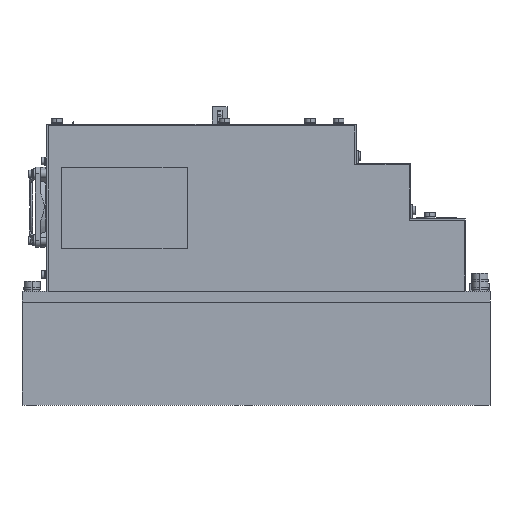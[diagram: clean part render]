
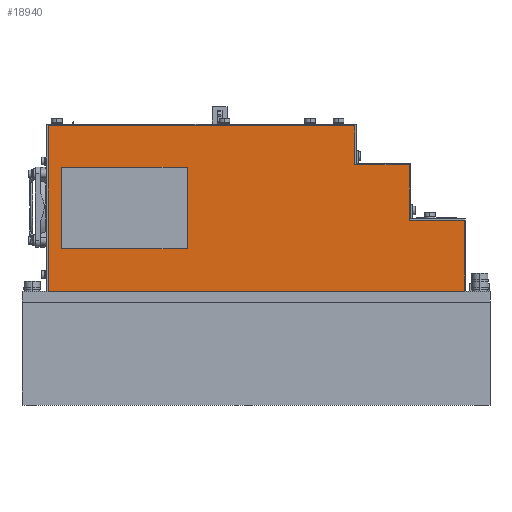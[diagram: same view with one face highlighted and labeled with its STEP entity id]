
A CAD part, left-side view. The second image highlights one B-rep face of the part: STEP entity #18940.
In plain terms, the highlighted planar face has unit normal (-1, 0, 0).
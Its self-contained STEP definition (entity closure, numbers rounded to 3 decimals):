
#18925 = EDGE_LOOP ( 'NONE', ( #19127, #19139, #19003, #19014 ) ) ;
#18940 = ADVANCED_FACE ( 'NONE', ( #55813, #55812 ), #55811, .F. ) ;
#18942 = EDGE_LOOP ( 'NONE', ( #18948, #18960, #18972, #19027, #19039, #19050, #19062, #19070 ) ) ;
#18948 = ORIENTED_EDGE ( 'NONE', *, *, #18951, .F. ) ;
#18951 = EDGE_CURVE ( 'NONE', #18953, #18958, #55870, .T. ) ;
#18953 = VERTEX_POINT ( 'NONE', #55862 ) ;
#18958 = VERTEX_POINT ( 'NONE', #55861 ) ;
#18960 = ORIENTED_EDGE ( 'NONE', *, *, #18961, .F. ) ;
#18961 = EDGE_CURVE ( 'NONE', #18964, #18953, #55860, .T. ) ;
#18964 = VERTEX_POINT ( 'NONE', #55856 ) ;
#18972 = ORIENTED_EDGE ( 'NONE', *, *, #18973, .F. ) ;
#18973 = EDGE_CURVE ( 'NONE', #18976, #18964, #55849, .T. ) ;
#18976 = VERTEX_POINT ( 'NONE', #55845 ) ;
#19000 = VERTEX_POINT ( 'NONE', #55897 ) ;
#19003 = ORIENTED_EDGE ( 'NONE', *, *, #19004, .F. ) ;
#19004 = EDGE_CURVE ( 'NONE', #19008, #19000, #55896, .T. ) ;
#19008 = VERTEX_POINT ( 'NONE', #55892 ) ;
#19014 = ORIENTED_EDGE ( 'NONE', *, *, #19015, .F. ) ;
#19015 = EDGE_CURVE ( 'NONE', #19135, #19008, #55886, .T. ) ;
#19027 = ORIENTED_EDGE ( 'NONE', *, *, #19032, .T. ) ;
#19032 = EDGE_CURVE ( 'NONE', #18976, #19037, #55929, .T. ) ;
#19037 = VERTEX_POINT ( 'NONE', #55921 ) ;
#19039 = ORIENTED_EDGE ( 'NONE', *, *, #19042, .T. ) ;
#19042 = EDGE_CURVE ( 'NONE', #19037, #19047, #55919, .T. ) ;
#19047 = VERTEX_POINT ( 'NONE', #55911 ) ;
#19050 = ORIENTED_EDGE ( 'NONE', *, *, #19052, .T. ) ;
#19052 = EDGE_CURVE ( 'NONE', #19047, #19055, #55909, .T. ) ;
#19055 = VERTEX_POINT ( 'NONE', #55964 ) ;
#19062 = ORIENTED_EDGE ( 'NONE', *, *, #19063, .T. ) ;
#19063 = EDGE_CURVE ( 'NONE', #19055, #19066, #55957, .T. ) ;
#19066 = VERTEX_POINT ( 'NONE', #55953 ) ;
#19070 = ORIENTED_EDGE ( 'NONE', *, *, #19072, .T. ) ;
#19072 = EDGE_CURVE ( 'NONE', #19066, #18958, #55952, .T. ) ;
#19127 = ORIENTED_EDGE ( 'NONE', *, *, #19128, .F. ) ;
#19128 = EDGE_CURVE ( 'NONE', #19133, #19135, #56029, .T. ) ;
#19133 = VERTEX_POINT ( 'NONE', #56025 ) ;
#19135 = VERTEX_POINT ( 'NONE', #56024 ) ;
#19139 = ORIENTED_EDGE ( 'NONE', *, *, #19142, .F. ) ;
#19142 = EDGE_CURVE ( 'NONE', #19000, #19133, #56013, .T. ) ;
#55807 = DIRECTION ( 'NONE',  ( 0., 0., -1. ) ) ;
#55808 = DIRECTION ( 'NONE',  ( 1., 0., 0. ) ) ;
#55809 = CARTESIAN_POINT ( 'NONE',  ( -25., -10.5, 551.066 ) ) ;
#55810 = AXIS2_PLACEMENT_3D ( 'NONE', #55809, #55808, #55807 ) ;
#55811 = PLANE ( 'NONE',  #55810 ) ;
#55812 = FACE_BOUND ( 'NONE', #18925, .T. ) ;
#55813 = FACE_OUTER_BOUND ( 'NONE', #18942, .T. ) ;
#55845 = CARTESIAN_POINT ( 'NONE',  ( -25., -323.5, 85.2 ) ) ;
#55846 = DIRECTION ( 'NONE',  ( 0., 1., 0. ) ) ;
#55847 = VECTOR ( 'NONE', #55846, 1000. ) ;
#55848 = CARTESIAN_POINT ( 'NONE',  ( -25., -10.5, 85.2 ) ) ;
#55849 = LINE ( 'NONE', #55848, #55847 ) ;
#55856 = CARTESIAN_POINT ( 'NONE',  ( -25., -12.1, 85.2 ) ) ;
#55857 = DIRECTION ( 'NONE',  ( 0., 0., 1. ) ) ;
#55858 = VECTOR ( 'NONE', #55857, 1000. ) ;
#55859 = CARTESIAN_POINT ( 'NONE',  ( -25., -12.1, 208.8 ) ) ;
#55860 = LINE ( 'NONE', #55859, #55858 ) ;
#55861 = CARTESIAN_POINT ( 'NONE',  ( -25., -241.3, 208.8 ) ) ;
#55862 = CARTESIAN_POINT ( 'NONE',  ( -25., -12.1, 208.8 ) ) ;
#55863 = DIRECTION ( 'NONE',  ( 0., -1., 0. ) ) ;
#55864 = VECTOR ( 'NONE', #55863, 1000. ) ;
#55865 = CARTESIAN_POINT ( 'NONE',  ( -25., -10.5, 208.8 ) ) ;
#55870 = LINE ( 'NONE', #55865, #55864 ) ;
#55883 = DIRECTION ( 'NONE',  ( 0., 0., 1. ) ) ;
#55884 = VECTOR ( 'NONE', #55883, 1000. ) ;
#55885 = CARTESIAN_POINT ( 'NONE',  ( -25., -116., 117. ) ) ;
#55886 = LINE ( 'NONE', #55885, #55884 ) ;
#55892 = CARTESIAN_POINT ( 'NONE',  ( -25., -116., 178. ) ) ;
#55893 = DIRECTION ( 'NONE',  ( 0., 1., 0. ) ) ;
#55894 = VECTOR ( 'NONE', #55893, 1000. ) ;
#55895 = CARTESIAN_POINT ( 'NONE',  ( -25., -22., 178. ) ) ;
#55896 = LINE ( 'NONE', #55895, #55894 ) ;
#55897 = CARTESIAN_POINT ( 'NONE',  ( -25., -22., 178. ) ) ;
#55906 = DIRECTION ( 'NONE',  ( 0., 0., 1. ) ) ;
#55907 = VECTOR ( 'NONE', #55906, 1000. ) ;
#55908 = CARTESIAN_POINT ( 'NONE',  ( -25., -282.1, 138.1 ) ) ;
#55909 = LINE ( 'NONE', #55908, #55907 ) ;
#55911 = CARTESIAN_POINT ( 'NONE',  ( -25., -282.1, 138.1 ) ) ;
#55916 = DIRECTION ( 'NONE',  ( 0., 1., 0. ) ) ;
#55917 = VECTOR ( 'NONE', #55916, 1000. ) ;
#55918 = CARTESIAN_POINT ( 'NONE',  ( -25., -324.5, 138.1 ) ) ;
#55919 = LINE ( 'NONE', #55918, #55917 ) ;
#55921 = CARTESIAN_POINT ( 'NONE',  ( -25., -323.5, 138.1 ) ) ;
#55926 = DIRECTION ( 'NONE',  ( 0., 0., 1. ) ) ;
#55927 = VECTOR ( 'NONE', #55926, 1000. ) ;
#55928 = CARTESIAN_POINT ( 'NONE',  ( -25., -323.5, 85. ) ) ;
#55929 = LINE ( 'NONE', #55928, #55927 ) ;
#55949 = DIRECTION ( 'NONE',  ( 0., 0., 1. ) ) ;
#55950 = VECTOR ( 'NONE', #55949, 1000. ) ;
#55951 = CARTESIAN_POINT ( 'NONE',  ( -25., -241.3, 179.8 ) ) ;
#55952 = LINE ( 'NONE', #55951, #55950 ) ;
#55953 = CARTESIAN_POINT ( 'NONE',  ( -25., -241.3, 179.8 ) ) ;
#55954 = DIRECTION ( 'NONE',  ( 0., 1., 0. ) ) ;
#55955 = VECTOR ( 'NONE', #55954, 1000. ) ;
#55956 = CARTESIAN_POINT ( 'NONE',  ( -25., -282.1, 179.8 ) ) ;
#55957 = LINE ( 'NONE', #55956, #55955 ) ;
#55964 = CARTESIAN_POINT ( 'NONE',  ( -25., -282.1, 179.8 ) ) ;
#56010 = DIRECTION ( 'NONE',  ( 0., 0., -1. ) ) ;
#56011 = VECTOR ( 'NONE', #56010, 1000. ) ;
#56012 = CARTESIAN_POINT ( 'NONE',  ( -25., -22., 117. ) ) ;
#56013 = LINE ( 'NONE', #56012, #56011 ) ;
#56024 = CARTESIAN_POINT ( 'NONE',  ( -25., -116., 117. ) ) ;
#56025 = CARTESIAN_POINT ( 'NONE',  ( -25., -22., 117. ) ) ;
#56026 = DIRECTION ( 'NONE',  ( 0., -1., 0. ) ) ;
#56027 = VECTOR ( 'NONE', #56026, 1000. ) ;
#56028 = CARTESIAN_POINT ( 'NONE',  ( -25., -22., 117. ) ) ;
#56029 = LINE ( 'NONE', #56028, #56027 ) ;
